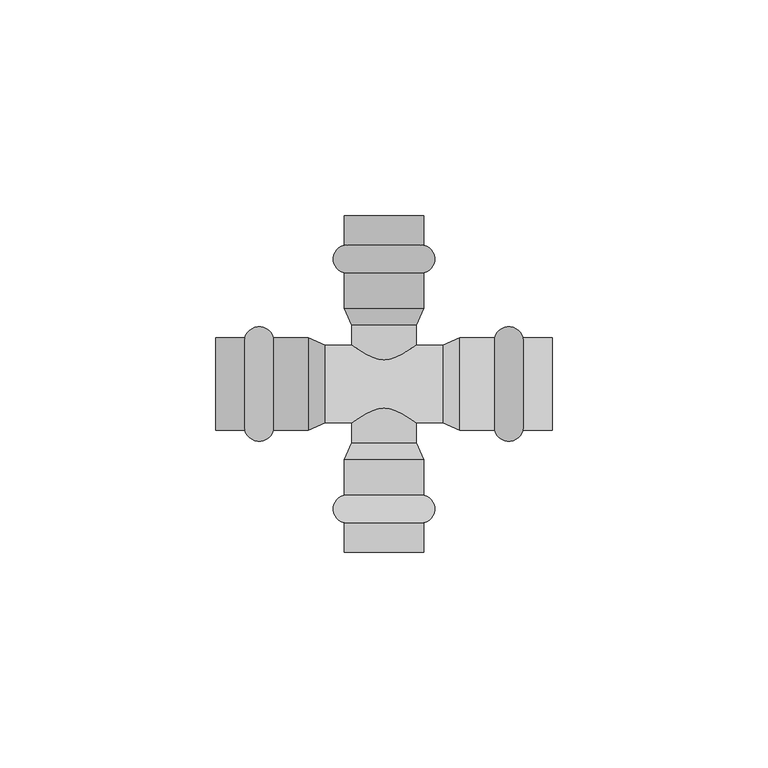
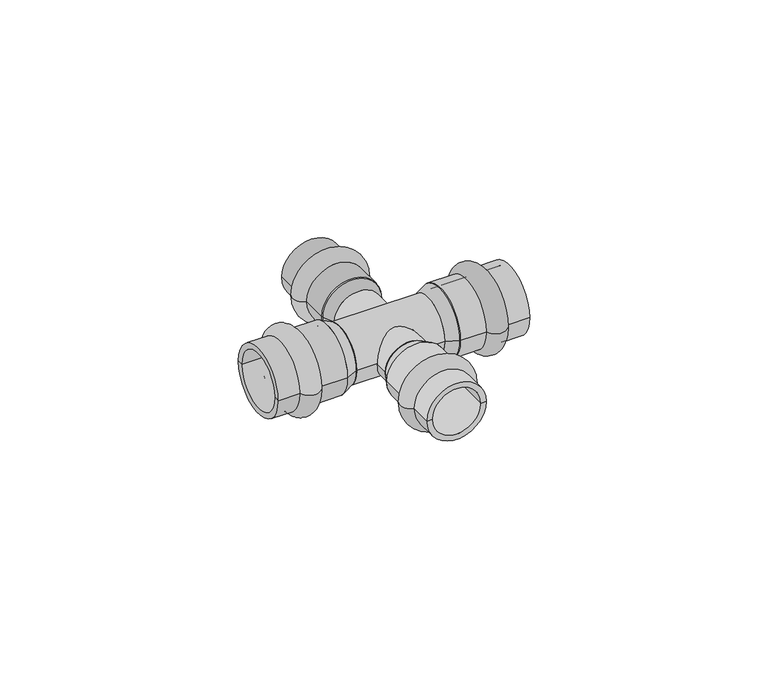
"""IFC4 building model written with IfcOpenShell, lengths in millimetres: pipe fitting geometry, VALTEC_VTi.941.I_Крестовина нержавеющая сталь : VTi.941.I."""

from ifc_helpers import new_model, si_unit, point, frame, origin, origin_2d, place, context, project, spatial, polyline, circle_curve, ellipse_curve, trimmed, segment, composite_curve, outline, extrude, source, transform, mapped, element, save
from ifc_brep_helpers import plane_surface, cylinder_surface, revolved_surface, advanced_brep


def pipe_fitting_5dbf4862(model_context):
    return source(origin(), model_context, "Body", "SolidModel", [
        advanced_brep(
        [(9.25, -32.1122777, 0.0), (-9.25, -32.1122777, 0.0), (-9.25, -25.7877223, 0.0), (9.25, -25.7877223, 0.0), (9.25, -39.0, 0.0), (-9.25, -39.0, 0.0), (7.5, -39.0, 0.0), (-7.5, -39.0, 0.0), (7.5, -17.55, 0.0), (-7.5, -17.55, 0.0), (9.25, -17.55, 0.0), (-9.25, -17.55, 0.0)],
        [
            (0, 1, circle_curve(frame((0.0, -32.1122777, 0.0), z_axis=(0.0, 1.0, 0.0), x_axis=(-1.0, 0.0, 0.0)), 9.25)),
            (1, 2, circle_curve(frame((-8.5, -28.95, 0.0), z_axis=(0.0, 0.0, -1.0), x_axis=(0.0, 1.0, 0.0)), 3.25)),
            (2, 3, circle_curve(frame((0.0, -25.7877223, 0.0), z_axis=(0.0, -1.0, 0.0), x_axis=(-1.0, 0.0, 0.0)), 9.25)),
            (3, 0, circle_curve(frame((8.5, -28.95, 0.0), z_axis=(0.0, 0.0, -1.0), x_axis=(0.0, 1.0, 0.0)), 3.25)),
            (1, 0, circle_curve(frame((0.0, -32.1122777, 0.0), z_axis=(0.0, 1.0, 0.0), x_axis=(-1.0, 0.0, 0.0)), 9.25)),
            (3, 2, circle_curve(frame((0.0, -25.7877223, 0.0), z_axis=(0.0, -1.0, 0.0), x_axis=(-1.0, 0.0, 0.0)), 9.25)),
            (4, 5, circle_curve(frame((0.0, -39.0, 0.0), z_axis=(0.0, 1.0, 0.0), x_axis=(-1.0, 0.0, 0.0)), 9.25)),
            (5, 1),
            (0, 4),
            (5, 4, circle_curve(frame((0.0, -39.0, 0.0), z_axis=(0.0, 1.0, 0.0), x_axis=(-1.0, 0.0, 0.0)), 9.25)),
            (6, 7, circle_curve(frame((0.0, -39.0, 0.0), z_axis=(0.0, 1.0, 0.0), x_axis=(-1.0, 0.0, 0.0)), 7.5)),
            (7, 5),
            (4, 6),
            (7, 6, circle_curve(frame((0.0, -39.0, 0.0), z_axis=(0.0, 1.0, 0.0), x_axis=(-1.0, 0.0, 0.0)), 7.5)),
            (8, 9, circle_curve(frame((0.0, -17.55, 0.0), z_axis=(0.0, 1.0, 0.0), x_axis=(-1.0, 0.0, 0.0)), 7.5)),
            (9, 7),
            (6, 8),
            (9, 8, circle_curve(frame((0.0, -17.55, 0.0), z_axis=(0.0, 1.0, 0.0), x_axis=(-1.0, 0.0, 0.0)), 7.5)),
            (10, 11, circle_curve(frame((0.0, -17.55, 0.0), z_axis=(0.0, 1.0, 0.0), x_axis=(-1.0, 0.0, 0.0)), 9.25)),
            (11, 9),
            (8, 10),
            (11, 10, circle_curve(frame((0.0, -17.55, 0.0), z_axis=(0.0, 1.0, 0.0), x_axis=(-1.0, 0.0, 0.0)), 9.25)),
            (2, 11),
            (10, 3),
        ],
        [
            revolved_surface(trimmed(ellipse_curve(frame((-8.5, -28.95, 0.0), z_axis=(0.0, 0.0, 1.0), x_axis=(0.0, 1.0, 0.0)), 3.25, 3.25), [point((-9.25, -25.7877223, 0.0))], [point((-9.25, -32.1122777, 0.0))], True, "CARTESIAN"), (0.0, -42.5364426, 0.0), (0.0, -1.0, 0.0)),
            cylinder_surface(frame((0.0, -42.5364426, 0.0), z_axis=(0.0, -1.0, 0.0), x_axis=(-1.0, 0.0, 0.0)), 9.25),
            plane_surface(frame((0.0, -39.0, 0.0), z_axis=(0.0, -1.0, 0.0), x_axis=(-1.0, 0.0, 0.0))),
            revolved_surface(polyline([(-7.5, -39.0, 0.0), (-7.5, -17.55, 0.0)]), (0.0, -42.5364426, 0.0), (0.0, -1.0, 0.0)),
            plane_surface(frame((0.0, -17.55, 0.0), z_axis=(0.0, 1.0, 0.0), x_axis=(-1.0, 0.0, 0.0))),
        ],
        [
            (0, [[1, 2, 3, 4]]),
            (0, [[5, -4, 6, -2]]),
            (1, [[7, 8, -1, 9]]),
            (1, [[10, -9, -5, -8]]),
            (2, [[11, 12, -7, 13]]),
            (2, [[14, -13, -10, -12]]),
            (3, [[15, 16, -11, 17]]),
            (3, [[18, -17, -14, -16]]),
            (4, [[19, 20, -15, 21]]),
            (4, [[22, -21, -18, -20]]),
            (1, [[-3, 23, -19, 24]]),
            (1, [[-6, -24, -22, -23]]),
        ],
    ),
        advanced_brep(
        [(32.2287193, 10.75, 0.0), (32.2287193, -10.75, 0.0), (25.6712807, -10.75, 0.0), (25.6712807, 10.75, 0.0), (39.0, 10.75, 0.0), (39.0, -10.75, 0.0), (39.0, 9.0, 0.0), (39.0, -9.0, 0.0), (17.55, 9.0, 0.0), (17.55, -9.0, 0.0), (17.55, 10.75, 0.0), (17.55, -10.75, 0.0)],
        [
            (0, 1, circle_curve(frame((32.2287193, 0.0, 0.0), z_axis=(-1.0, 0.0, 0.0), x_axis=(0.0, -1.0, 0.0)), 10.75)),
            (1, 2, circle_curve(frame((28.95, -9.85, 0.0), z_axis=(0.0, 0.0, -1.0), x_axis=(-1.0, 0.0, 0.0)), 3.4)),
            (2, 3, circle_curve(frame((25.6712807, 0.0, 0.0), z_axis=(1.0, 0.0, 0.0), x_axis=(0.0, -1.0, 0.0)), 10.75)),
            (3, 0, circle_curve(frame((28.95, 9.85, 0.0), z_axis=(0.0, 0.0, -1.0), x_axis=(-1.0, 0.0, 0.0)), 3.4)),
            (1, 0, circle_curve(frame((32.2287193, 0.0, 0.0), z_axis=(-1.0, 0.0, 0.0), x_axis=(0.0, -1.0, 0.0)), 10.75)),
            (3, 2, circle_curve(frame((25.6712807, 0.0, 0.0), z_axis=(1.0, 0.0, 0.0), x_axis=(0.0, -1.0, 0.0)), 10.75)),
            (4, 5, circle_curve(frame((39.0, 0.0, 0.0), z_axis=(-1.0, 0.0, 0.0), x_axis=(0.0, -1.0, 0.0)), 10.75)),
            (5, 1),
            (0, 4),
            (5, 4, circle_curve(frame((39.0, 0.0, 0.0), z_axis=(-1.0, 0.0, 0.0), x_axis=(0.0, -1.0, 0.0)), 10.75)),
            (6, 7, circle_curve(frame((39.0, 0.0, 0.0), z_axis=(-1.0, 0.0, 0.0), x_axis=(0.0, -1.0, 0.0)), 9.0)),
            (7, 5),
            (4, 6),
            (7, 6, circle_curve(frame((39.0, 0.0, 0.0), z_axis=(-1.0, 0.0, 0.0), x_axis=(0.0, -1.0, 0.0)), 9.0)),
            (8, 9, circle_curve(frame((17.55, 0.0, 0.0), z_axis=(-1.0, 0.0, 0.0), x_axis=(0.0, -1.0, 0.0)), 9.0)),
            (9, 7),
            (6, 8),
            (9, 8, circle_curve(frame((17.55, 0.0, 0.0), z_axis=(-1.0, 0.0, 0.0), x_axis=(0.0, -1.0, 0.0)), 9.0)),
            (10, 11, circle_curve(frame((17.55, 0.0, 0.0), z_axis=(-1.0, 0.0, 0.0), x_axis=(0.0, -1.0, 0.0)), 10.75)),
            (11, 9),
            (8, 10),
            (11, 10, circle_curve(frame((17.55, 0.0, 0.0), z_axis=(-1.0, 0.0, 0.0), x_axis=(0.0, -1.0, 0.0)), 10.75)),
            (2, 11),
            (10, 3),
        ],
        [
            revolved_surface(trimmed(ellipse_curve(frame((28.95, -9.85, 0.0), z_axis=(0.0, 0.0, 1.0), x_axis=(-1.0, 0.0, 0.0)), 3.4, 3.4), [point((25.6712807, -10.75, 0.0))], [point((32.2287193, -10.75, 0.0))], True, "CARTESIAN"), (42.5364426, 0.0, 0.0), (1.0, 0.0, 0.0)),
            cylinder_surface(frame((42.5364426, 0.0, 0.0), z_axis=(1.0, 0.0, 0.0), x_axis=(0.0, -1.0, 0.0)), 10.75),
            plane_surface(frame((39.0, 0.0, 0.0), z_axis=(1.0, 0.0, 0.0), x_axis=(0.0, -1.0, 0.0))),
            revolved_surface(polyline([(39.0, -9.0, 0.0), (17.55, -9.0, 0.0)]), (42.5364426, 0.0, 0.0), (1.0, 0.0, 0.0)),
            plane_surface(frame((17.55, 0.0, 0.0), z_axis=(-1.0, 0.0, 0.0), x_axis=(0.0, -1.0, 0.0))),
        ],
        [
            (0, [[1, 2, 3, 4]]),
            (0, [[5, -4, 6, -2]]),
            (1, [[7, 8, -1, 9]]),
            (1, [[10, -9, -5, -8]]),
            (2, [[11, 12, -7, 13]]),
            (2, [[14, -13, -10, -12]]),
            (3, [[15, 16, -11, 17]]),
            (3, [[18, -17, -14, -16]]),
            (4, [[19, 20, -15, 21]]),
            (4, [[22, -21, -18, -20]]),
            (1, [[-3, 23, -19, 24]]),
            (1, [[-6, -24, -22, -23]]),
        ],
    ),
        advanced_brep(
        [(-32.2287193, -10.75, 0.0), (-32.2287193, 10.75, 0.0), (-25.6712807, 10.75, 0.0), (-25.6712807, -10.75, 0.0), (-39.0, -10.75, 0.0), (-39.0, 10.75, 0.0), (-39.0, -9.0, 0.0), (-39.0, 9.0, 0.0), (-17.55, -9.0, 0.0), (-17.55, 9.0, 0.0), (-17.55, -10.75, 0.0), (-17.55, 10.75, 0.0)],
        [
            (0, 1, circle_curve(frame((-32.2287193, 0.0, 0.0), z_axis=(1.0, 0.0, 0.0), x_axis=(0.0, 1.0, 0.0)), 10.75)),
            (1, 2, circle_curve(frame((-28.95, 9.85, 0.0), z_axis=(0.0, 0.0, -1.0), x_axis=(1.0, 0.0, 0.0)), 3.4)),
            (2, 3, circle_curve(frame((-25.6712807, 0.0, 0.0), z_axis=(-1.0, 0.0, 0.0), x_axis=(0.0, 1.0, 0.0)), 10.75)),
            (3, 0, circle_curve(frame((-28.95, -9.85, 0.0), z_axis=(0.0, 0.0, -1.0), x_axis=(1.0, 0.0, 0.0)), 3.4)),
            (1, 0, circle_curve(frame((-32.2287193, 0.0, 0.0), z_axis=(1.0, 0.0, 0.0), x_axis=(0.0, 1.0, 0.0)), 10.75)),
            (3, 2, circle_curve(frame((-25.6712807, 0.0, 0.0), z_axis=(-1.0, 0.0, 0.0), x_axis=(0.0, 1.0, 0.0)), 10.75)),
            (4, 5, circle_curve(frame((-39.0, 0.0, 0.0), z_axis=(1.0, 0.0, 0.0), x_axis=(0.0, 1.0, 0.0)), 10.75)),
            (5, 1),
            (0, 4),
            (5, 4, circle_curve(frame((-39.0, 0.0, 0.0), z_axis=(1.0, 0.0, 0.0), x_axis=(0.0, 1.0, 0.0)), 10.75)),
            (6, 7, circle_curve(frame((-39.0, 0.0, 0.0), z_axis=(1.0, 0.0, 0.0), x_axis=(0.0, 1.0, 0.0)), 9.0)),
            (7, 5),
            (4, 6),
            (7, 6, circle_curve(frame((-39.0, 0.0, 0.0), z_axis=(1.0, 0.0, 0.0), x_axis=(0.0, 1.0, 0.0)), 9.0)),
            (8, 9, circle_curve(frame((-17.55, 0.0, 0.0), z_axis=(1.0, 0.0, 0.0), x_axis=(0.0, 1.0, 0.0)), 9.0)),
            (9, 7),
            (6, 8),
            (9, 8, circle_curve(frame((-17.55, 0.0, 0.0), z_axis=(1.0, 0.0, 0.0), x_axis=(0.0, 1.0, 0.0)), 9.0)),
            (10, 11, circle_curve(frame((-17.55, 0.0, 0.0), z_axis=(1.0, 0.0, 0.0), x_axis=(0.0, 1.0, 0.0)), 10.75)),
            (11, 9),
            (8, 10),
            (11, 10, circle_curve(frame((-17.55, 0.0, 0.0), z_axis=(1.0, 0.0, 0.0), x_axis=(0.0, 1.0, 0.0)), 10.75)),
            (2, 11),
            (10, 3),
        ],
        [
            revolved_surface(trimmed(ellipse_curve(frame((-28.95, 9.85, 0.0), z_axis=(0.0, 0.0, 1.0), x_axis=(1.0, 0.0, 0.0)), 3.4, 3.4), [point((-25.6712807, 10.75, 0.0))], [point((-32.2287193, 10.75, 0.0))], True, "CARTESIAN"), (-42.5364426, 0.0, 0.0), (-1.0, 0.0, 0.0)),
            cylinder_surface(frame((-42.5364426, 0.0, 0.0), z_axis=(-1.0, 0.0, 0.0), x_axis=(0.0, 1.0, 0.0)), 10.75),
            plane_surface(frame((-39.0, 0.0, 0.0), z_axis=(-1.0, 0.0, 0.0), x_axis=(0.0, 1.0, 0.0))),
            revolved_surface(polyline([(-39.0, 9.0, 0.0), (-17.55, 9.0, 0.0)]), (-42.5364426, 0.0, 0.0), (-1.0, 0.0, 0.0)),
            plane_surface(frame((-17.55, 0.0, 0.0), z_axis=(1.0, 0.0, 0.0), x_axis=(0.0, 1.0, 0.0))),
        ],
        [
            (0, [[1, 2, 3, 4]]),
            (0, [[5, -4, 6, -2]]),
            (1, [[7, 8, -1, 9]]),
            (1, [[10, -9, -5, -8]]),
            (2, [[11, 12, -7, 13]]),
            (2, [[14, -13, -10, -12]]),
            (3, [[15, 16, -11, 17]]),
            (3, [[18, -17, -14, -16]]),
            (4, [[19, 20, -15, 21]]),
            (4, [[22, -21, -18, -20]]),
            (1, [[-3, 23, -19, 24]]),
            (1, [[-6, -24, -22, -23]]),
        ],
    ),
        advanced_brep(
        [(-9.25, 32.1122777, 0.0), (9.25, 32.1122777, 0.0), (9.25, 25.7877223, 0.0), (-9.25, 25.7877223, 0.0), (-9.25, 39.0, 0.0), (9.25, 39.0, 0.0), (-7.5, 39.0, 0.0), (7.5, 39.0, 0.0), (-7.5, 17.55, 0.0), (7.5, 17.55, 0.0), (-9.25, 17.55, 0.0), (9.25, 17.55, 0.0)],
        [
            (0, 1, circle_curve(frame((0.0, 32.1122777, 0.0), z_axis=(0.0, -1.0, 0.0), x_axis=(1.0, 0.0, 0.0)), 9.25)),
            (1, 2, circle_curve(frame((8.5, 28.95, 0.0), z_axis=(0.0, 0.0, -1.0), x_axis=(0.0, -1.0, 0.0)), 3.25)),
            (2, 3, circle_curve(frame((0.0, 25.7877223, 0.0), z_axis=(0.0, 1.0, 0.0), x_axis=(1.0, 0.0, 0.0)), 9.25)),
            (3, 0, circle_curve(frame((-8.5, 28.95, 0.0), z_axis=(0.0, 0.0, -1.0), x_axis=(0.0, -1.0, 0.0)), 3.25)),
            (1, 0, circle_curve(frame((0.0, 32.1122777, 0.0), z_axis=(0.0, -1.0, 0.0), x_axis=(1.0, 0.0, 0.0)), 9.25)),
            (3, 2, circle_curve(frame((0.0, 25.7877223, 0.0), z_axis=(0.0, 1.0, 0.0), x_axis=(1.0, 0.0, 0.0)), 9.25)),
            (4, 5, circle_curve(frame((0.0, 39.0, 0.0), z_axis=(0.0, -1.0, 0.0), x_axis=(1.0, 0.0, 0.0)), 9.25)),
            (5, 1),
            (0, 4),
            (5, 4, circle_curve(frame((0.0, 39.0, 0.0), z_axis=(0.0, -1.0, 0.0), x_axis=(1.0, 0.0, 0.0)), 9.25)),
            (6, 7, circle_curve(frame((0.0, 39.0, 0.0), z_axis=(0.0, -1.0, 0.0), x_axis=(1.0, 0.0, 0.0)), 7.5)),
            (7, 5),
            (4, 6),
            (7, 6, circle_curve(frame((0.0, 39.0, 0.0), z_axis=(0.0, -1.0, 0.0), x_axis=(1.0, 0.0, 0.0)), 7.5)),
            (8, 9, circle_curve(frame((0.0, 17.55, 0.0), z_axis=(0.0, -1.0, 0.0), x_axis=(1.0, 0.0, 0.0)), 7.5)),
            (9, 7),
            (6, 8),
            (9, 8, circle_curve(frame((0.0, 17.55, 0.0), z_axis=(0.0, -1.0, 0.0), x_axis=(1.0, 0.0, 0.0)), 7.5)),
            (10, 11, circle_curve(frame((0.0, 17.55, 0.0), z_axis=(0.0, -1.0, 0.0), x_axis=(1.0, 0.0, 0.0)), 9.25)),
            (11, 9),
            (8, 10),
            (11, 10, circle_curve(frame((0.0, 17.55, 0.0), z_axis=(0.0, -1.0, 0.0), x_axis=(1.0, 0.0, 0.0)), 9.25)),
            (2, 11),
            (10, 3),
        ],
        [
            revolved_surface(trimmed(ellipse_curve(frame((8.5, 28.95, 0.0), z_axis=(0.0, 0.0, 1.0), x_axis=(0.0, -1.0, 0.0)), 3.25, 3.25), [point((9.25, 25.7877223, 0.0))], [point((9.25, 32.1122777, 0.0))], True, "CARTESIAN"), (0.0, 42.5364426, 0.0), (0.0, 1.0, 0.0)),
            cylinder_surface(frame((0.0, 42.5364426, 0.0), z_axis=(0.0, 1.0, 0.0), x_axis=(1.0, 0.0, 0.0)), 9.25),
            plane_surface(frame((0.0, 39.0, 0.0), z_axis=(0.0, 1.0, 0.0), x_axis=(1.0, 0.0, 0.0))),
            revolved_surface(polyline([(7.5, 39.0, 0.0), (7.5, 17.55, 0.0)]), (0.0, 42.5364426, 0.0), (0.0, 1.0, 0.0)),
            plane_surface(frame((0.0, 17.55, 0.0), z_axis=(0.0, -1.0, 0.0), x_axis=(1.0, 0.0, 0.0))),
        ],
        [
            (0, [[1, 2, 3, 4]]),
            (0, [[5, -4, 6, -2]]),
            (1, [[7, 8, -1, 9]]),
            (1, [[10, -9, -5, -8]]),
            (2, [[11, 12, -7, 13]]),
            (2, [[14, -13, -10, -12]]),
            (3, [[15, 16, -11, 17]]),
            (3, [[18, -17, -14, -16]]),
            (4, [[19, 20, -15, 21]]),
            (4, [[22, -21, -18, -20]]),
            (1, [[-3, 23, -19, 24]]),
            (1, [[-6, -24, -22, -23]]),
        ],
    ),
        extrude(outline(composite_curve([segment(trimmed(circle_curve(origin_2d(), 9.0), [point((-9.0, 0.0))], [point((9.0, 0.0))], False, "CARTESIAN"), True, "CONTINUOUS"), segment(trimmed(circle_curve(origin_2d(), 9.0), [point((9.0, 0.0))], [point((-9.0, 0.0))], False, "CARTESIAN"), True, "CONTINUOUS")], self_intersect=False)), frame((-13.65, 0.0, 0.0), z_axis=(1.0, 0.0, 0.0), x_axis=(0.0, 1.0, 0.0)), (0.0, 0.0, 1.0), 27.3),
        extrude(outline(composite_curve([segment(trimmed(circle_curve(origin_2d(), 7.5), [point((0.0, -7.5))], [point((0.0, 7.5))], False, "CARTESIAN"), True, "CONTINUOUS"), segment(trimmed(circle_curve(origin_2d(), 7.5), [point((0.0, 7.5))], [point((0.0, -7.5))], False, "CARTESIAN"), True, "CONTINUOUS")], self_intersect=False)), frame((0.0, -13.65, 0.0), z_axis=(0.0, 1.0, 0.0), x_axis=(0.0, 0.0, 1.0)), (0.0, 0.0, 1.0), 27.3),
        advanced_brep(
        [(-17.55, -10.75, 0.0), (-17.55, 10.75, 0.0), (-13.65, -9.0, 0.0), (-13.65, 9.0, 0.0)],
        [
            (0, 1, circle_curve(frame((-17.55, 0.0, 0.0), z_axis=(-1.0, 0.0, 0.0), x_axis=(0.0, -1.0, 0.0)), 10.75)),
            (1, 0, circle_curve(frame((-17.55, 0.0, 0.0), z_axis=(-1.0, 0.0, 0.0), x_axis=(0.0, 1.0, 0.0)), 10.75)),
            (2, 3, circle_curve(frame((-13.65, 0.0, 0.0), z_axis=(1.0, 0.0, 0.0), x_axis=(0.0, 1.0, 0.0)), 9.0)),
            (3, 2, circle_curve(frame((-13.65, 0.0, 0.0), z_axis=(1.0, 0.0, 0.0), x_axis=(0.0, -1.0, 0.0)), 9.0)),
            (2, 0),
            (1, 3),
        ],
        [
            plane_surface(frame((-17.55, 0.0, 0.0), z_axis=(-1.0, 0.0, 0.0), x_axis=(0.0, 0.0, 1.0))),
            plane_surface(frame((-13.65, 0.0, 0.0), z_axis=(1.0, 0.0, 0.0), x_axis=(0.0, 0.0, 1.0))),
            revolved_surface(polyline([(-13.650000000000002, -9.000000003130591, 0.0), (-17.55, -10.75, 0.0)]), (6.4071429, 0.0, 0.0), (-1.0, 0.0, 0.0)),
            revolved_surface(polyline([(-13.650000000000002, 9.000000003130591, 0.0), (-17.55, 10.75, 0.0)]), (6.4071429, 0.0, 0.0), (-1.0, 0.0, 0.0)),
        ],
        [
            (0, [[1, 2]]),
            (1, [[3, 4]]),
            (2, [[-3, 5, -2, 6]]),
            (3, [[-4, -6, -1, -5]]),
        ],
    ),
        advanced_brep(
        [(17.55, -10.75, 0.0), (17.55, 10.75, 0.0), (13.65, -9.0, 0.0), (13.65, 9.0, 0.0)],
        [
            (0, 1, circle_curve(frame((17.55, 0.0, 0.0), z_axis=(1.0, 0.0, 0.0), x_axis=(0.0, -1.0, 0.0)), 10.75)),
            (1, 0, circle_curve(frame((17.55, 0.0, 0.0), z_axis=(1.0, 0.0, 0.0), x_axis=(0.0, 1.0, 0.0)), 10.75)),
            (2, 3, circle_curve(frame((13.65, 0.0, 0.0), z_axis=(-1.0, 0.0, 0.0), x_axis=(0.0, 1.0, 0.0)), 9.0)),
            (3, 2, circle_curve(frame((13.65, 0.0, 0.0), z_axis=(-1.0, 0.0, 0.0), x_axis=(0.0, -1.0, 0.0)), 9.0)),
            (3, 1),
            (0, 2),
        ],
        [
            plane_surface(frame((17.55, 0.0, 0.0), z_axis=(1.0, 0.0, 0.0), x_axis=(0.0, 0.0, -1.0))),
            plane_surface(frame((13.65, 0.0, 0.0), z_axis=(-1.0, 0.0, 0.0), x_axis=(0.0, 0.0, -1.0))),
            revolved_surface(polyline([(13.650000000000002, 9.000000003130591, 0.0), (17.55, 10.75, 0.0)]), (-6.4071429, 0.0, 0.0), (1.0, 0.0, 0.0)),
            revolved_surface(polyline([(13.650000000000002, -9.000000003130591, 0.0), (17.55, -10.75, 0.0)]), (-6.4071429, 0.0, 0.0), (1.0, 0.0, 0.0)),
        ],
        [
            (0, [[1, 2]]),
            (1, [[3, 4]]),
            (2, [[-4, 5, -1, 6]]),
            (3, [[-3, -6, -2, -5]]),
        ],
    ),
        advanced_brep(
        [(-9.25, -17.55, 0.0), (9.25, -17.55, 0.0), (-7.5, -13.65, 0.0), (7.5, -13.65, 0.0)],
        [
            (0, 1, circle_curve(frame((0.0, -17.55, 0.0), z_axis=(0.0, -1.0, 0.0), x_axis=(-1.0, 0.0, 0.0)), 9.25)),
            (1, 0, circle_curve(frame((0.0, -17.55, 0.0), z_axis=(0.0, -1.0, 0.0), x_axis=(1.0, 0.0, 0.0)), 9.25)),
            (2, 3, circle_curve(frame((0.0, -13.65, 0.0), z_axis=(0.0, 1.0, 0.0), x_axis=(1.0, 0.0, 0.0)), 7.5)),
            (3, 2, circle_curve(frame((0.0, -13.65, 0.0), z_axis=(0.0, 1.0, 0.0), x_axis=(-1.0, 0.0, 0.0)), 7.5)),
            (3, 1),
            (0, 2),
        ],
        [
            plane_surface(frame((0.0, -17.55, 0.0), z_axis=(0.0, -1.0, 0.0), x_axis=(0.0, 0.0, 1.0))),
            plane_surface(frame((0.0, -13.65, 0.0), z_axis=(0.0, 1.0, 0.0), x_axis=(0.0, 0.0, 1.0))),
            revolved_surface(polyline([(7.499999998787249, -13.650000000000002, 0.0), (9.25, -17.55, 0.0)]), (0.0, 3.0642857, 0.0), (0.0, -1.0, 0.0)),
            revolved_surface(polyline([(-7.499999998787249, -13.650000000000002, 0.0), (-9.25, -17.55, 0.0)]), (0.0, 3.0642857, 0.0), (0.0, -1.0, 0.0)),
        ],
        [
            (0, [[1, 2]]),
            (1, [[3, 4]]),
            (2, [[-4, 5, -1, 6]]),
            (3, [[-3, -6, -2, -5]]),
        ],
    ),
        advanced_brep(
        [(-9.25, 17.55, 0.0), (9.25, 17.55, 0.0), (-7.5, 13.65, 0.0), (7.5, 13.65, 0.0)],
        [
            (0, 1, circle_curve(frame((0.0, 17.55, 0.0), z_axis=(0.0, 1.0, 0.0), x_axis=(-1.0, 0.0, 0.0)), 9.25)),
            (1, 0, circle_curve(frame((0.0, 17.55, 0.0), z_axis=(0.0, 1.0, 0.0), x_axis=(1.0, 0.0, 0.0)), 9.25)),
            (2, 3, circle_curve(frame((0.0, 13.65, 0.0), z_axis=(0.0, -1.0, 0.0), x_axis=(1.0, 0.0, 0.0)), 7.5)),
            (3, 2, circle_curve(frame((0.0, 13.65, 0.0), z_axis=(0.0, -1.0, 0.0), x_axis=(-1.0, 0.0, 0.0)), 7.5)),
            (2, 0),
            (1, 3),
        ],
        [
            plane_surface(frame((0.0, 17.55, 0.0), z_axis=(0.0, 1.0, 0.0), x_axis=(0.0, 0.0, -1.0))),
            plane_surface(frame((0.0, 13.65, 0.0), z_axis=(0.0, -1.0, 0.0), x_axis=(0.0, 0.0, -1.0))),
            revolved_surface(polyline([(-7.499999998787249, 13.650000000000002, 0.0), (-9.25, 17.55, 0.0)]), (0.0, -3.0642857, 0.0), (0.0, 1.0, 0.0)),
            revolved_surface(polyline([(7.499999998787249, 13.650000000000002, 0.0), (9.25, 17.55, 0.0)]), (0.0, -3.0642857, 0.0), (0.0, 1.0, 0.0)),
        ],
        [
            (0, [[1, 2]]),
            (1, [[3, 4]]),
            (2, [[-3, 5, -2, 6]]),
            (3, [[-4, -6, -1, -5]]),
        ],
    ),
    ])


if __name__ == "__main__":
    model = new_model("IFC4")
    model_context = context("Model", 3, world=origin())
    ifc_project = project(units=[si_unit("LENGTHUNIT", "METRE", prefix="MILLI")], contexts=[model_context])
    site = spatial("IfcSite", under=ifc_project)
    building = spatial("IfcBuilding", under=site)
    placement = place(None, origin())
    pipe_fitting_shape = pipe_fitting_5dbf4862(model_context)
    element("IfcPipeFitting", 1, ObjectType="VALTEC_VTi.941.I_Крестовина нержавеющая сталь : VTi.941.I", at=placement, inside=building, context=model_context, shape_type="MappedRepresentation", body=[
        mapped(pipe_fitting_shape, transform((0.0, 0.0, 0.0), x_axis=(1.0, 0.0, 0.0), y_axis=(0.0, 1.0, 0.0), z_axis=(0.0, 0.0, 1.0))),
    ])
    save(model, "model.ifc")
